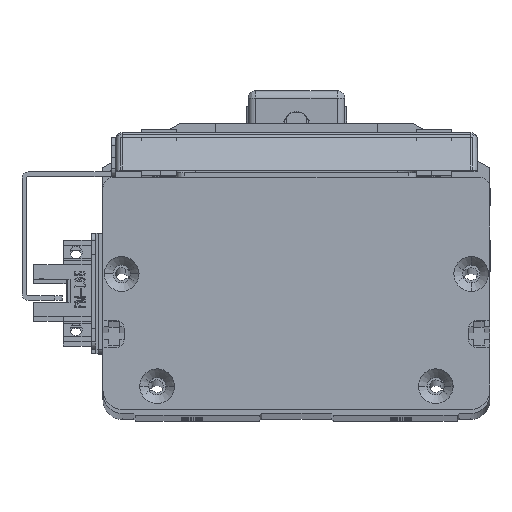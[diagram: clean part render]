
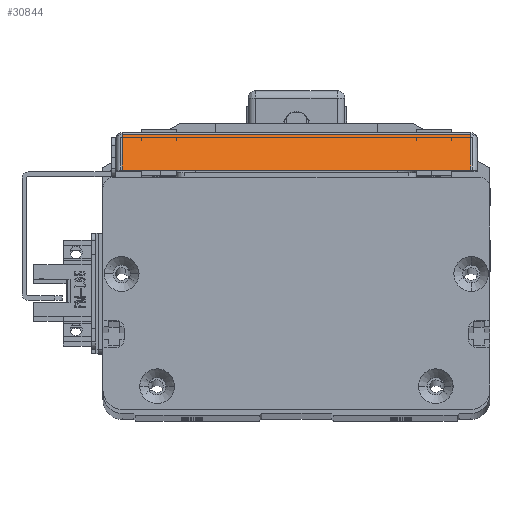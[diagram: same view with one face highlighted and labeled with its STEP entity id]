
A CAD part, top view. The second image highlights one B-rep face of the part: STEP entity #30844.
In plain terms, the highlighted planar face has unit normal (0, 0.707, 0.707) as drawn and (-0.707, 0, -0.707) by its records, which use the part's own axes.
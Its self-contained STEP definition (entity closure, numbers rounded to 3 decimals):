
#395 = EDGE_CURVE ( 'NONE', #38234, #48625, #36314, .T. ) ;
#1016 = DIRECTION ( 'NONE',  ( -0.707, 0., 0.707 ) ) ;
#1263 = AXIS2_PLACEMENT_3D ( 'NONE', #43396, #5907, #1016 ) ;
#5907 = DIRECTION ( 'NONE',  ( -0.707, 0., -0.707 ) ) ;
#6226 = VERTEX_POINT ( 'NONE', #34951 ) ;
#9468 = VECTOR ( 'NONE', #32920, 1000. ) ;
#14365 = EDGE_CURVE ( 'NONE', #6226, #39144, #67038, .T. ) ;
#15945 = ORIENTED_EDGE ( 'NONE', *, *, #63764, .T. ) ;
#16923 = CARTESIAN_POINT ( 'NONE',  ( -57.298, 91.7, -5.102 ) ) ;
#21725 = CARTESIAN_POINT ( 'NONE',  ( -66.5, 93.4, 4.1 ) ) ;
#23444 = ORIENTED_EDGE ( 'NONE', *, *, #395, .T. ) ;
#24945 = EDGE_CURVE ( 'NONE', #39144, #38234, #42912, .T. ) ;
#25297 = ORIENTED_EDGE ( 'NONE', *, *, #14365, .T. ) ;
#27794 = FACE_OUTER_BOUND ( 'NONE', #52595, .T. ) ;
#30844 = ADVANCED_FACE ( 'NONE', ( #27794 ), #47353, .T. ) ;
#31135 = VECTOR ( 'NONE', #65161, 1000. ) ;
#32920 = DIRECTION ( 'NONE',  ( 0., -1., 0. ) ) ;
#34951 = CARTESIAN_POINT ( 'NONE',  ( -66.5, 1.7, 4.1 ) ) ;
#36314 = LINE ( 'NONE', #38979, #9468 ) ;
#37977 = VECTOR ( 'NONE', #69170, 1000. ) ;
#38234 = VERTEX_POINT ( 'NONE', #16923 ) ;
#38979 = CARTESIAN_POINT ( 'NONE',  ( -57.298, 93.4, -5.102 ) ) ;
#39144 = VERTEX_POINT ( 'NONE', #52784 ) ;
#42912 = LINE ( 'NONE', #65860, #31135 ) ;
#43396 = CARTESIAN_POINT ( 'NONE',  ( -68., 93.4, 5.6 ) ) ;
#47151 = LINE ( 'NONE', #59087, #37977 ) ;
#47353 = PLANE ( 'NONE',  #1263 ) ;
#47932 = CARTESIAN_POINT ( 'NONE',  ( -57.298, 1.7, -5.102 ) ) ;
#48625 = VERTEX_POINT ( 'NONE', #47932 ) ;
#52595 = EDGE_LOOP ( 'NONE', ( #15945, #25297, #54293, #23444 ) ) ;
#52784 = CARTESIAN_POINT ( 'NONE',  ( -66.5, 91.7, 4.1 ) ) ;
#53894 = DIRECTION ( 'NONE',  ( 0., 1., 0. ) ) ;
#54293 = ORIENTED_EDGE ( 'NONE', *, *, #24945, .T. ) ;
#57053 = VECTOR ( 'NONE', #53894, 1000. ) ;
#59087 = CARTESIAN_POINT ( 'NONE',  ( -68., 1.7, 5.6 ) ) ;
#63764 = EDGE_CURVE ( 'NONE', #48625, #6226, #47151, .T. ) ;
#65161 = DIRECTION ( 'NONE',  ( 0.707, 0., -0.707 ) ) ;
#65860 = CARTESIAN_POINT ( 'NONE',  ( -68., 91.7, 5.6 ) ) ;
#67038 = LINE ( 'NONE', #21725, #57053 ) ;
#69170 = DIRECTION ( 'NONE',  ( -0.707, 0., 0.707 ) ) ;
